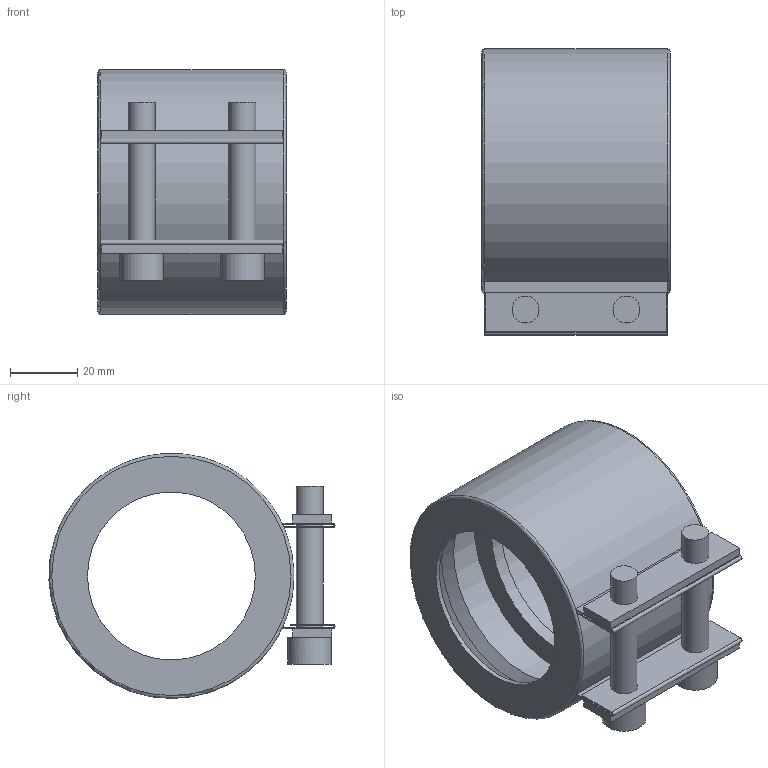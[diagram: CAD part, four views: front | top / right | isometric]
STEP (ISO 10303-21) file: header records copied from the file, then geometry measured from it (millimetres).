
FILE_DESCRIPTION( ( 'STEP AP214' ), '1' );
FILE_NAME( 'C:/Users/ilukic/Documents/ex/gebaudeentwasserung/pe/Geberit adapter clamping connector/359465.stp', '2020-03-26T18:41:12', ( '' ), ( '' ), ' ', 'PARTsolutions', ' ' );
FILE_SCHEMA( ( 'AUTOMOTIVE_DESIGN { 1 0 10303 214 1 1 1 1 }' ) );
Length unit declared in the file: millimetre
Products named in the file (1): _359465
Bounding box: 56 x 85.23 x 72.98 mm (x, y, z)
Volume: 50027.9 mm3; surface area: 51760.4 mm2
Topology: 1 solids, 1 shells, 91 faces, 221 edges, 144 vertices
Faces by surface type: plane 63, cylinder 22, cone 4, torus 2
Full cylindrical faces by diameter (mm): 8 x8, 13 x2, 50 x1, 55.238 x1, 58 x1, 70.058 x2
Entity records: 3194 total; most frequent: CARTESIAN_POINT 428, DIRECTION 424, ORIENTED_EDGE 368, EDGE_CURVE 184, AXIS2_PLACEMENT_3D 156, EDGE_LOOP 140, VERTEX_POINT 128, LINE 112
